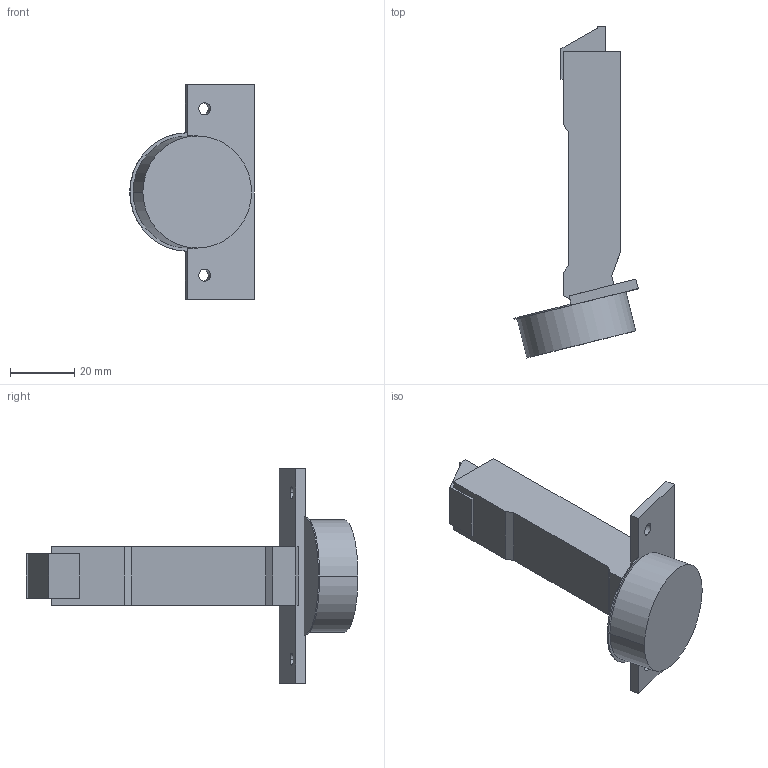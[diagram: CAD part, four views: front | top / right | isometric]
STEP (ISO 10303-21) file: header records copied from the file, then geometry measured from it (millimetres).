
FILE_DESCRIPTION (( 'STEP AP214' ), '1' );
FILE_NAME ('Scharnier TS Click-on 120°_-15° H_BB, aufliegend.step', '2010-12-13T09:57:55', ( 'grass' ), ( '' ), 'SwSTEP 2.0', 'SolidWorks 2010', '' );
FILE_SCHEMA (( 'AUTOMOTIVE_DESIGN' ));
Length unit declared in the file: millimetre
Products named in the file (1): Scharnier TS Click-on 120°_-15° H_BB, aufliegend
Bounding box: 38.91 x 103.72 x 67 mm (x, y, z)
Volume: 40212.3 mm3; surface area: 11638.5 mm2
Topology: 1 solids, 1 shells, 46 faces, 120 edges, 80 vertices
Faces by surface type: plane 33, cylinder 13
Entity records: 1452 total; most frequent: CARTESIAN_POINT 247, DIRECTION 240, ORIENTED_EDGE 240, EDGE_CURVE 120, LINE 94, VECTOR 94, VERTEX_POINT 80, AXIS2_PLACEMENT_3D 73
